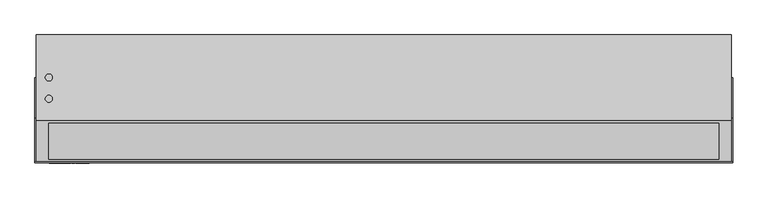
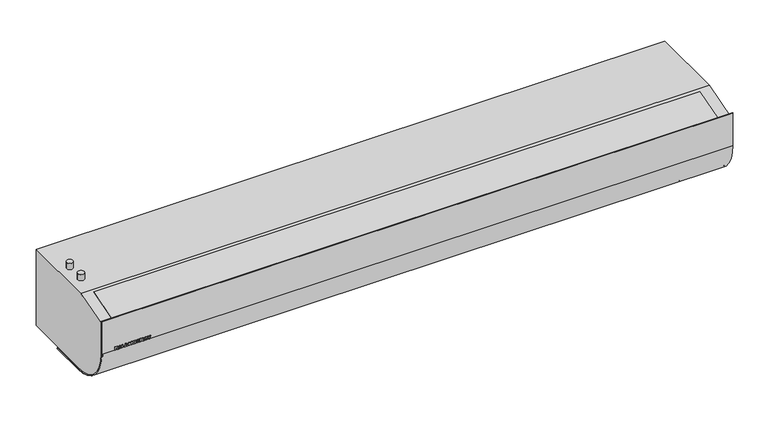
"""IFC4 building model written with IfcOpenShell, lengths in millimetres: proxy geometry, ИЗТТ_Завеса_Водяная : KVC-C20W30-11."""

from ifc_helpers import new_model, si_unit, point, frame, frame_2d, origin, place, context, project, spatial, polyline, circle_curve, trimmed, segment, composite_curve, outline, extrude, source, transform, mapped, element, save
from ifc_brep_helpers import plane_surface, cylinder_surface, advanced_brep


def mechanical_equipment_067d93a8(model_context):
    return source(origin(), model_context, "Body", "SolidModel", [
        extrude(outline(polyline([(139.0, -959.0196078), (129.0, -959.0196078), (129.0, -955.8823529), (130.7647059, -955.8823529), (132.7745098, -954.1115196), (129.0, -952.2794118), (129.0, -948.4313725), (135.2775735, -951.9056373), (139.0, -948.627451), (139.0, -952.8982843), (135.2224265, -955.8823529), (139.0, -955.8823529), (139.0, -959.0196078)])), frame((0.0, -367.0, 0.0), z_axis=(0.0, 1.0, 0.0), x_axis=(0.0, 0.0, 1.0)), (0.0, 0.0, 1.0), 1.0),
        extrude(outline(polyline([(130.5686275, -941.4338235), (129.0, -940.9803922), (129.0, -937.6470588), (139.0, -941.0202206), (139.0, -945.0582108), (129.0, -948.4313725), (129.0, -945.0980392), (130.5686275, -944.6660539), (130.5686275, -941.4338235)]), holes=[polyline([(132.9215686, -942.0281863), (132.9215686, -944.0165441), (136.4540441, -943.0392157), (132.9215686, -942.0281863)])]), frame((0.0, -367.0, 0.0), z_axis=(0.0, 1.0, 0.0), x_axis=(0.0, 0.0, 1.0)), (0.0, 0.0, 1.0), 1.0),
        extrude(outline(polyline([(139.0, -936.6666667), (129.0, -936.6666667), (129.0, -928.8235294), (131.3529412, -928.8235294), (131.3529412, -933.5294118), (139.0, -933.5294118), (139.0, -936.6666667)])), frame((0.0, -367.0, 0.0), z_axis=(0.0, 1.0, 0.0), x_axis=(0.0, 0.0, 1.0)), (0.0, 0.0, 1.0), 1.0),
        extrude(outline(polyline([(130.5686275, -921.4338235), (129.0, -920.9803922), (129.0, -917.6470588), (139.0, -921.0202206), (139.0, -925.0582108), (129.0, -928.4313725), (129.0, -925.0980392), (130.5686275, -924.6660539), (130.5686275, -921.4338235)]), holes=[polyline([(132.9215686, -922.0281863), (132.9215686, -924.0165441), (136.4540441, -923.0392157), (132.9215686, -922.0281863)])]), frame((0.0, -367.0, 0.0), z_axis=(0.0, 1.0, 0.0), x_axis=(0.0, 0.0, 1.0)), (0.0, 0.0, 1.0), 1.0),
        extrude(outline(polyline([(132.3394608, -917.254902), (129.8026961, -916.1488971), (128.8039216, -912.6378676), (129.2297794, -910.2420343), (130.4813113, -908.7637868), (132.28125, -908.2352941), (133.7870711, -908.6305147), (134.9129902, -909.8958333), (135.8106618, -912.7757353), (137.4313725, -912.9074755), (137.1050858, -912.1338848), (136.0588235, -911.7647059), (136.2395833, -908.627451), (138.4883578, -909.8054534), (139.1960784, -912.6807598), (138.8039216, -915.1011029), (137.7285539, -916.4231005), (136.276348, -916.8627451), (134.3492647, -915.9957108), (133.1237745, -913.1219363), (131.8186275, -911.372549), (131.0818015, -911.6865809), (130.7647059, -912.5796569), (131.3958333, -913.7775735), (132.5294118, -914.1176471), (132.3394608, -917.254902)])), frame((0.0, -367.0, 0.0), z_axis=(0.0, 1.0, 0.0), x_axis=(0.0, 0.0, 1.0)), (0.0, 0.0, 1.0), 1.0),
        extrude(outline(polyline([(139.0, -906.6666667), (129.0, -906.6666667), (129.0, -903.5294118), (133.1176471, -903.5294118), (133.1176471, -900.1960784), (129.0, -900.1960784), (129.0, -897.0588235), (139.0, -897.0588235), (139.0, -900.1960784), (135.4705882, -900.1960784), (135.4705882, -903.5294118), (139.0, -903.5294118), (139.0, -906.6666667)])), frame((0.0, -367.0, 0.0), z_axis=(0.0, 1.0, 0.0), x_axis=(0.0, 0.0, 1.0)), (0.0, 0.0, 1.0), 1.0),
        extrude(outline(polyline([(139.0, -895.0980392), (129.0, -895.0980392), (129.0, -892.1568627), (134.4901961, -892.1568627), (129.0, -888.4313725), (129.0, -885.4901961), (139.0, -885.4901961), (139.0, -888.4313725), (133.4730392, -888.4313725), (139.0, -892.1783088), (139.0, -895.0980392)])), frame((0.0, -367.0, 0.0), z_axis=(0.0, 1.0, 0.0), x_axis=(0.0, 0.0, 1.0)), (0.0, 0.0, 1.0), 1.0),
        extrude(outline(polyline([(-880.1960784, -367.0), (-883.3333333, -367.0), (-883.3333333, -366.0), (-880.1960784, -366.0), (-880.1960784, -367.0)])), frame((0.0, 0.0, 129.0), z_axis=(0.0, 0.0, 1.0), x_axis=(1.0, 0.0, 0.0)), (0.0, 0.0, 1.0), 10.0),
        extrude(outline(polyline([(139.0, -878.0392157), (129.0, -878.0392157), (129.0, -874.9019608), (130.7647059, -874.9019608), (132.7745098, -873.1311275), (129.0, -871.2990196), (129.0, -867.4509804), (135.2775735, -870.9252451), (139.0, -867.6470588), (139.0, -871.9178922), (135.2224265, -874.9019608), (139.0, -874.9019608), (139.0, -878.0392157)])), frame((0.0, -367.0, 0.0), z_axis=(0.0, 1.0, 0.0), x_axis=(0.0, 0.0, 1.0)), (0.0, 0.0, 1.0), 1.0),
        extrude(outline(polyline([(133.9938725, -866.8627451), (131.0603554, -866.171875), (129.346201, -864.3688725), (128.8039216, -861.5594363), (129.4304534, -858.7729779), (131.1859681, -857.0618873), (134.0765931, -856.4705882), (137.8495711, -857.8247549), (139.1960784, -861.685049), (137.8250613, -865.4947917), (133.9938725, -866.8627451)]), holes=[polyline([(133.9938725, -863.7254902), (136.1813725, -863.1678922), (136.8431373, -861.6911765), (136.1920956, -860.1685049), (134.1286765, -859.6078431), (131.8048407, -860.145527), (131.1568627, -861.6636029), (131.8186275, -863.1709559), (133.9938725, -863.7254902)])]), frame((0.0, -367.0, 0.0), z_axis=(0.0, 1.0, 0.0), x_axis=(0.0, 0.0, 1.0)), (0.0, 0.0, 1.0), 1.0),
        extrude(outline(polyline([(139.0, -855.6862745), (129.0, -851.9699755), (129.0, -848.6397059), (139.0, -844.9019608), (139.0, -848.2352941), (131.8033088, -850.2941176), (139.0, -852.3560049), (139.0, -855.6862745)])), frame((0.0, -367.0, 0.0), z_axis=(0.0, 1.0, 0.0), x_axis=(0.0, 0.0, 1.0)), (0.0, 0.0, 1.0), 1.0),
        extrude(outline(polyline([(-23.6666667, 10.0), (-23.6666667, 0.0), (-43.3333333, 10.0), (-43.3333333, 0.0), (-63.0, 10.0), (-63.0, 0.0), (-82.6666667, 10.0), (-82.6666667, 0.0), (-102.3333333, 10.0), (-102.3333333, 0.0), (-121.9166498, 10.5360909), (-4.0, 10.5360909), (-4.0, 0.0), (-23.6666667, 10.0)])), frame((-960.0, 0.0, 0.0), z_axis=(1.0, 0.0, 0.0), x_axis=(0.0, 1.0, 0.0)), (0.0, 0.0, 1.0), 1920.0),
        advanced_brep(
        [(996.0, -244.0, 258.0), (996.0, -364.0, 223.0), (996.0, -364.0, 129.0), (996.0, -237.0, 2.0), (996.0, 0.0, 2.0), (996.0, 0.0, 258.0), (-996.0, -244.0, 258.0), (-996.0, 0.0, 258.0), (-996.0, 0.0, 2.0), (-996.0, -237.0, 2.0), (-996.0, -364.0, 129.0), (-996.0, -364.0, 223.0), (-950.0, -183.0, 258.0), (-970.0, -183.0, 258.0), (-950.0, -122.0, 258.0), (-970.0, -122.0, 258.0), (960.0, -4.0, 2.0), (-960.0, -4.0, 2.0), (-960.0, -122.0, 2.0), (960.0, -122.0, 2.0), (960.0, -4.0, 10.0), (960.0, -122.0, 10.0), (-960.0, -122.0, 10.0), (-960.0, -4.0, 10.0), (-970.0, -183.0, 278.0), (-950.0, -183.0, 278.0), (-970.0, -122.0, 278.0), (-950.0, -122.0, 278.0)],
        [
            (0, 1),
            (1, 2),
            (2, 3, circle_curve(frame((996.0, -237.0, 129.0), z_axis=(1.0, 0.0, 0.0), x_axis=(0.0, 1.0, 0.0)), 127.0)),
            (3, 4),
            (4, 5),
            (5, 0),
            (6, 7),
            (7, 8),
            (8, 9),
            (9, 10, circle_curve(frame((-996.0, -237.0, 129.0), z_axis=(-1.0, 0.0, 0.0), x_axis=(0.0, 1.0, 0.0)), 127.0)),
            (10, 11),
            (11, 6),
            (1, 11),
            (10, 2),
            (4, 8),
            (7, 5),
            (6, 0),
            (12, 13, circle_curve(frame((-960.0, -183.0, 258.0), z_axis=(0.0, 0.0, -1.0), x_axis=(1.0, 0.0, 0.0)), 10.0)),
            (13, 12, circle_curve(frame((-960.0, -183.0, 258.0), z_axis=(0.0, 0.0, -1.0), x_axis=(1.0, 0.0, 0.0)), 10.0)),
            (14, 15, circle_curve(frame((-960.0, -122.0, 258.0), z_axis=(0.0, 0.0, -1.0), x_axis=(1.0, 0.0, 0.0)), 10.0)),
            (15, 14, circle_curve(frame((-960.0, -122.0, 258.0), z_axis=(0.0, 0.0, -1.0), x_axis=(1.0, 0.0, 0.0)), 10.0)),
            (9, 3),
            (16, 17),
            (17, 18),
            (18, 19),
            (19, 16),
            (20, 21),
            (21, 22),
            (22, 23),
            (23, 20),
            (23, 17),
            (16, 20),
            (22, 18),
            (21, 19),
            (24, 25, circle_curve(frame((-960.0, -183.0, 278.0), z_axis=(0.0, 0.0, 1.0), x_axis=(1.0, 0.0, 0.0)), 10.0)),
            (25, 24, circle_curve(frame((-960.0, -183.0, 278.0), z_axis=(0.0, 0.0, 1.0), x_axis=(1.0, 0.0, 0.0)), 10.0)),
            (26, 27, circle_curve(frame((-960.0, -122.0, 278.0), z_axis=(0.0, 0.0, 1.0), x_axis=(1.0, 0.0, 0.0)), 10.0)),
            (27, 26, circle_curve(frame((-960.0, -122.0, 278.0), z_axis=(0.0, 0.0, 1.0), x_axis=(1.0, 0.0, 0.0)), 10.0)),
            (24, 13),
            (12, 25),
            (26, 15),
            (14, 27),
        ],
        [
            plane_surface(frame((996.0, -244.0, 258.0), z_axis=(1.0, 0.0, 0.0), x_axis=(0.0, -0.9600000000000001, -0.27999999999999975))),
            plane_surface(frame((-996.0, -244.0, 258.0), z_axis=(-1.0, 0.0, 0.0), x_axis=(0.0, 0.9600000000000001, 0.27999999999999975))),
            plane_surface(frame((996.0, -364.0, 223.0), z_axis=(0.0, -1.0, 0.0), x_axis=(-1.0, 0.0, 0.0))),
            plane_surface(frame((996.0, 0.0, 2.0), z_axis=(0.0, 1.0, 0.0), x_axis=(-1.0, 0.0, 0.0))),
            plane_surface(frame((996.0, 0.0, 258.0), z_axis=(0.0, 0.0, 1.0), x_axis=(-1.0, 0.0, 0.0))),
            cylinder_surface(frame((-996.0, -237.0, 129.0), z_axis=(1.0, 0.0, 0.0), x_axis=(0.0, 1.0, 0.0)), 127.0),
            plane_surface(frame((996.0, -237.0, 2.0), z_axis=(0.0, 0.0, -1.0), x_axis=(-1.0, 0.0, 0.0))),
            plane_surface(frame((996.0, -244.0, 258.0), z_axis=(0.0, -0.27999999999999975, 0.9600000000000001), x_axis=(-1.0, 0.0, 0.0))),
            plane_surface(frame((-960.0, -4.0, 10.0), z_axis=(0.0, 0.0, -1.0), x_axis=(-1.0, 0.0, 0.0))),
            plane_surface(frame((960.0, -4.0, 10.0), z_axis=(0.0, -1.0, 0.0), x_axis=(0.0, 0.0, -1.0))),
            plane_surface(frame((-960.0, -4.0, 10.0), z_axis=(1.0, 0.0, 0.0), x_axis=(0.0, 0.0, -1.0))),
            plane_surface(frame((-960.0, -122.0, 10.0), z_axis=(0.0, 1.0, 0.0), x_axis=(0.0, 0.0, -1.0))),
            plane_surface(frame((960.0, -122.0, 10.0), z_axis=(-1.0, 0.0, 0.0), x_axis=(0.0, 0.0, -1.0))),
            plane_surface(frame((-950.0, -183.0, 278.0), z_axis=(0.0, 0.0, 1.0), x_axis=(0.0, 1.0, 0.0))),
            cylinder_surface(frame((-960.0, -183.0, 258.0), z_axis=(0.0, 0.0, 1.0), x_axis=(1.0, 0.0, 0.0)), 10.0),
            cylinder_surface(frame((-960.0, -122.0, 0.0), z_axis=(0.0, 0.0, 1.0), x_axis=(1.0, 0.0, 0.0)), 10.0),
        ],
        [
            (0, [[1, 2, 3, 4, 5, 6]]),
            (1, [[7, 8, 9, 10, 11, 12]]),
            (2, [[-2, 13, -11, 14]]),
            (3, [[-5, 15, -8, 16]]),
            (4, [[-6, -16, -7, 17], [18, 19], [20, 21]]),
            (5, [[-3, -14, -10, 22]]),
            (6, [[-4, -22, -9, -15], [23, 24, 25, 26]]),
            (7, [[-1, -17, -12, -13]]),
            (8, [[27, 28, 29, 30]]),
            (9, [[-30, 31, -23, 32]]),
            (10, [[-29, 33, -24, -31]]),
            (11, [[-28, 34, -25, -33]]),
            (12, [[-27, -32, -26, -34]]),
            (13, [[35, 36]]),
            (13, [[37, 38]]),
            (14, [[-35, 39, -18, 40]]),
            (14, [[-36, -40, -19, -39]]),
            (15, [[-37, 41, -20, 42]]),
            (15, [[-38, -42, -21, -41]]),
        ],
    ),
        extrude(outline(polyline([(0.0, -106.3426612), (0.0, 0.0), (1920.0, 0.0), (1920.0, -106.3426612), (0.0, -106.3426612)])), frame((960.0, -355.390912, 224.7016158), z_axis=(0.0, -0.2799999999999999, 0.9600000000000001), x_axis=(-1.0, 0.0, 0.0)), (0.0, 0.0, 1.0), 1.553987),
        extrude(outline(composite_curve([segment(polyline([(-366.0, 238.0), (-364.0, 238.0), (-364.0, 129.0)]), True, "CONTINUOUS"), segment(trimmed(circle_curve(frame_2d((-237.0, 129.0)), 127.0), [point((-364.0, 129.0))], [point((-237.0, 2.0))], True, "CARTESIAN"), True, "CONTINUOUS"), segment(polyline([(-237.0, 2.0), (-122.0, 2.0), (-122.0, 0.0), (-237.0, 0.0)]), True, "CONTINUOUS"), segment(trimmed(circle_curve(frame_2d((-237.0, 129.0)), 129.0), [point((-237.0, 0.0))], [point((-366.0, 129.0))], False, "CARTESIAN"), True, "CONTINUOUS"), segment(polyline([(-366.0, 129.0), (-366.0, 238.0)]), True, "CONTINUOUS")], self_intersect=False)), frame((-1000.0, 0.0, 0.0), z_axis=(1.0, 0.0, 0.0), x_axis=(0.0, 1.0, 0.0)), (0.0, 0.0, 1.0), 2000.0),
    ])


if __name__ == "__main__":
    model = new_model("IFC4")
    model_context = context("Model", 3, world=origin())
    ifc_project = project(units=[si_unit("LENGTHUNIT", "METRE", prefix="MILLI")], contexts=[model_context])
    site = spatial("IfcSite", under=ifc_project)
    building = spatial("IfcBuilding", under=site)
    placement = place(None, origin())
    mechanical_equipment_shape = mechanical_equipment_067d93a8(model_context)
    element("IfcBuildingElementProxy", 1, Name="ИЗТТ_Завеса_Водяная : KVC-C20W30-11", ObjectType="ИЗТТ_Завеса_Водяная : KVC-C20W30-11", at=placement, inside=building, context=model_context, shape_type="MappedRepresentation", body=[
        mapped(mechanical_equipment_shape, transform((0.0, 0.0, 0.0), x_axis=(1.0, 0.0, 0.0), y_axis=(0.0, 1.0, 0.0), z_axis=(0.0, 0.0, 1.0))),
    ])
    save(model, "model.ifc")
